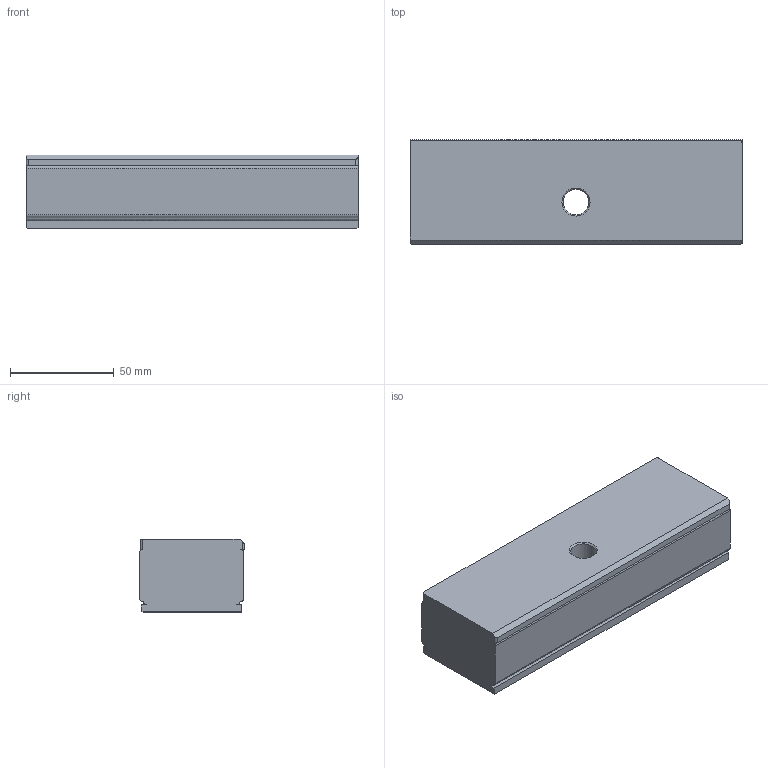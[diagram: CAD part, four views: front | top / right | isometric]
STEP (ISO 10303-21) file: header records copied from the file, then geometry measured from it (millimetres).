
FILE_DESCRIPTION (( 'STEP AP214' ), '1' );
FILE_NAME ('6921034005131.STEP', '2018-08-06T07:19:51', ( '' ), ( '' ), 'SwSTEP 2.0', 'SolidWorks 2016', '' );
FILE_SCHEMA (( 'AUTOMOTIVE_DESIGN' ));
Length unit declared in the file: millimetre
Products named in the file (1): 6921034005131
Bounding box: 160 x 50.3 x 35.6 mm (x, y, z)
Volume: 276076.6 mm3; surface area: 33913.7 mm2
Topology: 1 solids, 1 shells, 34 faces, 93 edges, 62 vertices
Faces by surface type: plane 21, cylinder 12, cone 1
Full cylindrical faces by diameter (mm): 12.3 x1, 17.1 x1
Entity records: 1094 total; most frequent: CARTESIAN_POINT 191, DIRECTION 180, ORIENTED_EDGE 178, EDGE_CURVE 89, LINE 64, VECTOR 64, VERTEX_POINT 61, AXIS2_PLACEMENT_3D 58
